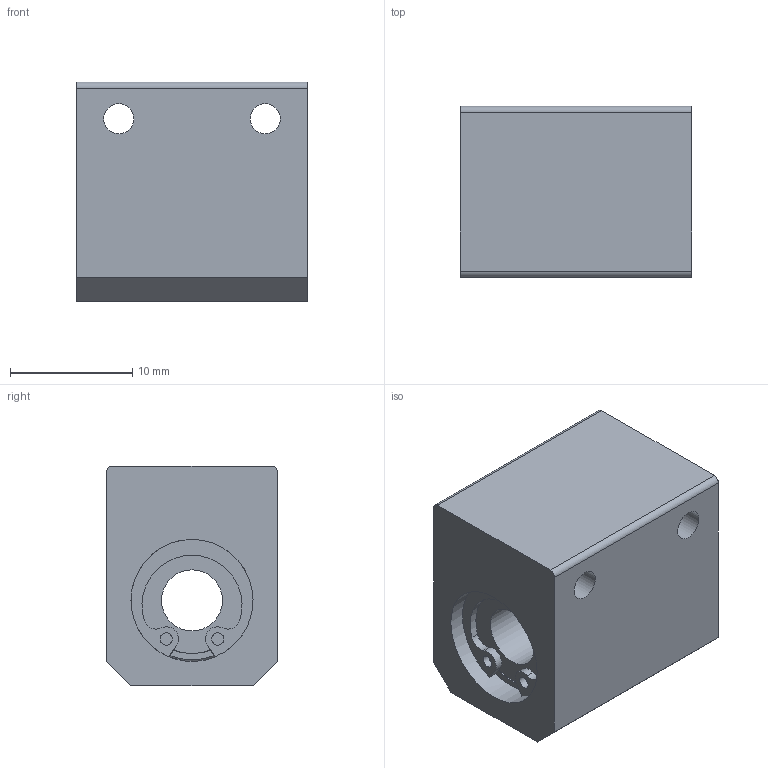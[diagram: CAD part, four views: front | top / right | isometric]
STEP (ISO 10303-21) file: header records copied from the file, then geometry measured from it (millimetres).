
FILE_DESCRIPTION((''),'2;1');
FILE_NAME('D:\製品 (図面)\カタログ用3D\リニアベアリング関連(改)\STEP形式\CH\CH5.stp','2010-01-25T09:31:29',('Tsuchiya'),(''),'Autodesk Inventor 10','Autodesk Inventor 10','');
FILE_SCHEMA(('AUTOMOTIVE_DESIGN { 1 0 10303 214 1 1 1 1 }'));
Length unit declared in the file: millimetre
Products named in the file (1): CH5
Bounding box: 19 x 14 x 18 mm (x, y, z)
Volume: 3972.1 mm3; surface area: 2444.1 mm2
Topology: 1 solids, 3 shells, 57 faces, 148 edges, 96 vertices
Faces by surface type: plane 21, bspline 18, cylinder 18
Full cylindrical faces by diameter (mm): 1 x2, 5 x1, 8.7 x2, 9.6 x2, 10 x4
Entity records: 1824 total; most frequent: CARTESIAN_POINT 516, DIRECTION 264, ORIENTED_EDGE 236, EDGE_CURVE 118, AXIS2_PLACEMENT_3D 106, EDGE_LOOP 98, VERTEX_POINT 86, CIRCLE 66
